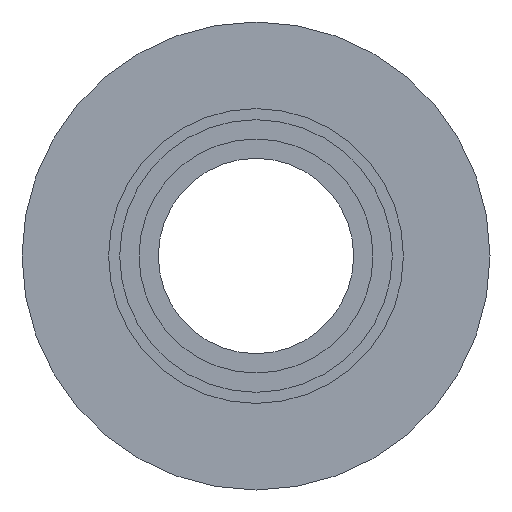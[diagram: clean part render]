
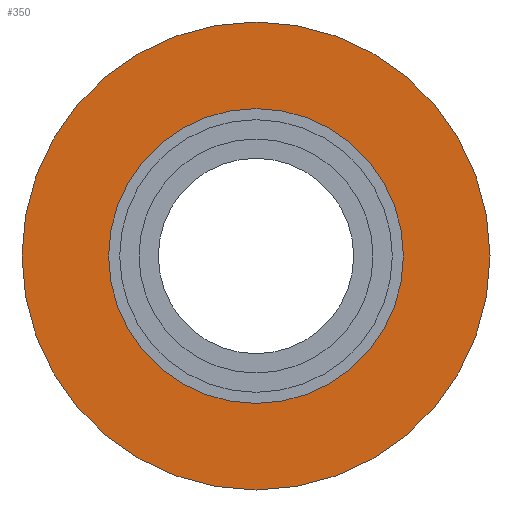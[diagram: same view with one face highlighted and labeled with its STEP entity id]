
A CAD part, left-side view. The second image highlights one B-rep face of the part: STEP entity #350.
In plain terms, the highlighted planar face has unit normal (-1, 0, 0).
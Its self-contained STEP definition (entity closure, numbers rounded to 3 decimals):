
#180 = PLANE ( 'NONE',  #646 ) ;
#181 = CARTESIAN_POINT ( 'NONE',  ( 0., 0., 0. ) ) ;
#182 = DIRECTION ( 'NONE',  ( 1., 0., 0. ) ) ;
#183 = DIRECTION ( 'NONE',  ( 0., 0., -1. ) ) ;
#248 = VERTEX_POINT ( 'NONE', #249 ) ;
#249 = CARTESIAN_POINT ( 'NONE',  ( 0., 0., -7.95 ) ) ;
#256 = VERTEX_POINT ( 'NONE', #257 ) ;
#257 = CARTESIAN_POINT ( 'NONE',  ( 0., 0., -19.05 ) ) ;
#350 = ADVANCED_FACE ( 'NONE', ( #642, #644 ), #180, .F. ) ;
#357 = EDGE_CURVE ( 'NONE', #248, #248, #405, .T. ) ;
#361 = EDGE_CURVE ( 'NONE', #256, #256, #423, .T. ) ;
#405 = CIRCLE ( 'NONE', #666, 7.95 ) ;
#423 = CIRCLE ( 'NONE', #670, 19.05 ) ;
#498 = EDGE_LOOP ( 'NONE', ( #760 ) ) ;
#584 = ORIENTED_EDGE ( 'NONE', *, *, #361, .F. ) ;
#603 = CARTESIAN_POINT ( 'NONE',  ( 0., 0., 0. ) ) ;
#604 = DIRECTION ( 'NONE',  ( -1., 0., 0. ) ) ;
#605 = DIRECTION ( 'NONE',  ( 0., 0., -1. ) ) ;
#615 = CARTESIAN_POINT ( 'NONE',  ( 0., 0., 0. ) ) ;
#616 = DIRECTION ( 'NONE',  ( 1., 0., 0. ) ) ;
#617 = DIRECTION ( 'NONE',  ( 0., 0., -1. ) ) ;
#642 = FACE_OUTER_BOUND ( 'NONE', #698, .T. ) ;
#644 = FACE_BOUND ( 'NONE', #498, .T. ) ;
#646 = AXIS2_PLACEMENT_3D ( 'NONE', #181, #182, #183 ) ;
#666 = AXIS2_PLACEMENT_3D ( 'NONE', #603, #604, #605 ) ;
#670 = AXIS2_PLACEMENT_3D ( 'NONE', #615, #616, #617 ) ;
#698 = EDGE_LOOP ( 'NONE', ( #584 ) ) ;
#760 = ORIENTED_EDGE ( 'NONE', *, *, #357, .F. ) ;
